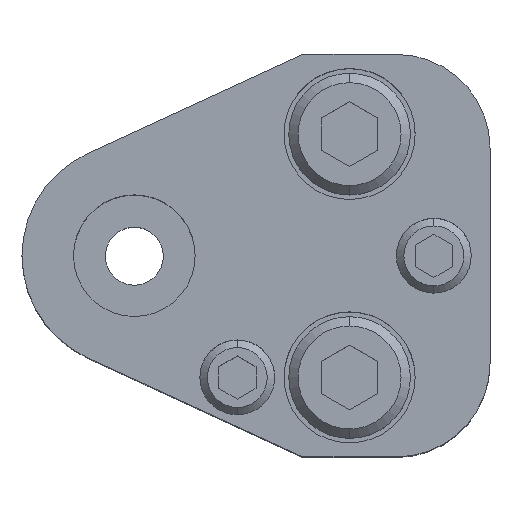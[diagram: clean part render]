
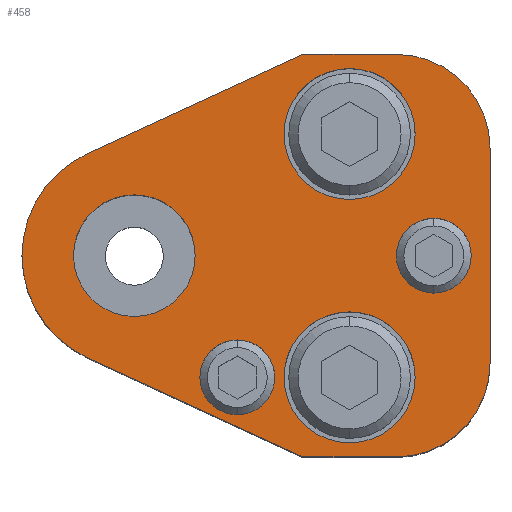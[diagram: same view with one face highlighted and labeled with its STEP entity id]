
A CAD part, top view. The second image highlights one B-rep face of the part: STEP entity #458.
In plain terms, the highlighted planar face has unit normal (0, 0, 1).
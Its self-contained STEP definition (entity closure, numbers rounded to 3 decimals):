
#217=FACE_BOUND('',#825,.T.);
#218=FACE_BOUND('',#826,.T.);
#219=FACE_BOUND('',#827,.T.);
#220=FACE_BOUND('',#828,.T.);
#221=FACE_BOUND('',#829,.T.);
#222=FACE_BOUND('',#830,.T.);
#273=CIRCLE('',#2646,12.);
#275=CIRCLE('',#2651,10.);
#277=CIRCLE('',#2655,10.);
#295=CIRCLE('',#2683,7.);
#297=CIRCLE('',#2686,7.);
#299=CIRCLE('',#2690,7.);
#301=CIRCLE('',#2693,7.);
#303=CIRCLE('',#2697,4.);
#304=CIRCLE('',#2698,4.);
#305=CIRCLE('',#2699,4.);
#306=CIRCLE('',#2700,4.);
#307=CIRCLE('',#2701,6.5);
#308=CIRCLE('',#2702,6.5);
#458=ADVANCED_FACE('',(#217,#218,#219,#220,#221,#222),#588,.T.);
#588=PLANE('',#2703);
#825=EDGE_LOOP('',(#1181,#1182,#1183,#1184,#1185,#1186,#1187,#1188));
#826=EDGE_LOOP('',(#1189,#1190));
#827=EDGE_LOOP('',(#1191,#1192));
#828=EDGE_LOOP('',(#1193,#1194));
#829=EDGE_LOOP('',(#1195,#1196));
#830=EDGE_LOOP('',(#1197,#1198));
#1181=ORIENTED_EDGE('',*,*,#1934,.T.);
#1182=ORIENTED_EDGE('',*,*,#1938,.T.);
#1183=ORIENTED_EDGE('',*,*,#1941,.T.);
#1184=ORIENTED_EDGE('',*,*,#1944,.T.);
#1185=ORIENTED_EDGE('',*,*,#1947,.T.);
#1186=ORIENTED_EDGE('',*,*,#1950,.T.);
#1187=ORIENTED_EDGE('',*,*,#1953,.T.);
#1188=ORIENTED_EDGE('',*,*,#1956,.T.);
#1189=ORIENTED_EDGE('',*,*,#1991,.F.);
#1190=ORIENTED_EDGE('',*,*,#1992,.F.);
#1191=ORIENTED_EDGE('',*,*,#1993,.F.);
#1192=ORIENTED_EDGE('',*,*,#1994,.F.);
#1193=ORIENTED_EDGE('',*,*,#1989,.F.);
#1194=ORIENTED_EDGE('',*,*,#1985,.F.);
#1195=ORIENTED_EDGE('',*,*,#1983,.F.);
#1196=ORIENTED_EDGE('',*,*,#1979,.F.);
#1197=ORIENTED_EDGE('',*,*,#1995,.T.);
#1198=ORIENTED_EDGE('',*,*,#1996,.T.);
#1688=VERTEX_POINT('',#3846);
#1689=VERTEX_POINT('',#3848);
#1692=VERTEX_POINT('',#3855);
#1694=VERTEX_POINT('',#3861);
#1696=VERTEX_POINT('',#3867);
#1698=VERTEX_POINT('',#3873);
#1700=VERTEX_POINT('',#3879);
#1702=VERTEX_POINT('',#3885);
#1719=VERTEX_POINT('',#3938);
#1720=VERTEX_POINT('',#3939);
#1723=VERTEX_POINT('',#3951);
#1724=VERTEX_POINT('',#3952);
#1727=VERTEX_POINT('',#3964);
#1728=VERTEX_POINT('',#3965);
#1729=VERTEX_POINT('',#3968);
#1730=VERTEX_POINT('',#3969);
#1731=VERTEX_POINT('',#3972);
#1732=VERTEX_POINT('',#3973);
#1934=EDGE_CURVE('',#1689,#1688,#273,.T.);
#1938=EDGE_CURVE('',#1688,#1692,#2266,.T.);
#1941=EDGE_CURVE('',#1692,#1694,#2269,.T.);
#1944=EDGE_CURVE('',#1694,#1696,#275,.T.);
#1947=EDGE_CURVE('',#1696,#1698,#2273,.T.);
#1950=EDGE_CURVE('',#1698,#1700,#277,.T.);
#1953=EDGE_CURVE('',#1700,#1702,#2277,.T.);
#1956=EDGE_CURVE('',#1702,#1689,#2280,.T.);
#1979=EDGE_CURVE('',#1719,#1720,#295,.T.);
#1983=EDGE_CURVE('',#1720,#1719,#297,.T.);
#1985=EDGE_CURVE('',#1723,#1724,#299,.T.);
#1989=EDGE_CURVE('',#1724,#1723,#301,.T.);
#1991=EDGE_CURVE('',#1727,#1728,#303,.T.);
#1992=EDGE_CURVE('',#1728,#1727,#304,.T.);
#1993=EDGE_CURVE('',#1729,#1730,#305,.T.);
#1994=EDGE_CURVE('',#1730,#1729,#306,.T.);
#1995=EDGE_CURVE('',#1731,#1732,#307,.T.);
#1996=EDGE_CURVE('',#1732,#1731,#308,.T.);
#2266=LINE('',#3856,#2458);
#2269=LINE('',#3862,#2461);
#2273=LINE('',#3874,#2465);
#2277=LINE('',#3886,#2469);
#2280=LINE('',#3890,#2472);
#2458=VECTOR('',#3056,1.);
#2461=VECTOR('',#3061,1.);
#2465=VECTOR('',#3073,1.);
#2469=VECTOR('',#3085,1.);
#2472=VECTOR('',#3090,1.);
#2646=AXIS2_PLACEMENT_3D('',#3847,#3048,#3049);
#2651=AXIS2_PLACEMENT_3D('',#3868,#3066,#3067);
#2655=AXIS2_PLACEMENT_3D('',#3880,#3078,#3079);
#2683=AXIS2_PLACEMENT_3D('',#3937,#3145,#3146);
#2686=AXIS2_PLACEMENT_3D('',#3946,#3153,#3154);
#2690=AXIS2_PLACEMENT_3D('',#3950,#3161,#3162);
#2693=AXIS2_PLACEMENT_3D('',#3959,#3169,#3170);
#2697=AXIS2_PLACEMENT_3D('',#3963,#3177,#3178);
#2698=AXIS2_PLACEMENT_3D('',#3966,#3179,#3180);
#2699=AXIS2_PLACEMENT_3D('',#3967,#3181,#3182);
#2700=AXIS2_PLACEMENT_3D('',#3970,#3183,#3184);
#2701=AXIS2_PLACEMENT_3D('',#3971,#3185,#3186);
#2702=AXIS2_PLACEMENT_3D('',#3974,#3187,#3188);
#2703=AXIS2_PLACEMENT_3D('',#3975,#3189,#3190);
#3048=DIRECTION('',(0.,0.,1.));
#3049=DIRECTION('',(0.,1.,0.));
#3056=DIRECTION('',(0.908,-0.418,0.));
#3061=DIRECTION('',(1.,0.,0.));
#3066=DIRECTION('',(0.,0.,1.));
#3067=DIRECTION('',(-0.707,0.707,0.));
#3073=DIRECTION('',(0.,1.,0.));
#3078=DIRECTION('',(0.,0.,1.));
#3079=DIRECTION('',(-0.707,-0.707,0.));
#3085=DIRECTION('',(-1.,0.,0.));
#3090=DIRECTION('',(-0.908,-0.418,0.));
#3145=DIRECTION('',(0.,0.,1.));
#3146=DIRECTION('',(-1.,0.,0.));
#3153=DIRECTION('',(0.,0.,1.));
#3154=DIRECTION('',(1.,0.,0.));
#3161=DIRECTION('',(0.,0.,1.));
#3162=DIRECTION('',(-1.,0.,0.));
#3169=DIRECTION('',(0.,0.,1.));
#3170=DIRECTION('',(1.,0.,0.));
#3177=DIRECTION('',(0.,0.,1.));
#3178=DIRECTION('',(1.,0.,0.));
#3179=DIRECTION('',(0.,0.,1.));
#3180=DIRECTION('',(-1.,0.,0.));
#3181=DIRECTION('',(0.,0.,1.));
#3182=DIRECTION('',(1.,0.,0.));
#3183=DIRECTION('',(0.,0.,1.));
#3184=DIRECTION('',(-1.,0.,0.));
#3185=DIRECTION('',(0.,0.,-1.));
#3186=DIRECTION('',(-1.,0.,0.));
#3187=DIRECTION('',(0.,0.,-1.));
#3188=DIRECTION('',(1.,0.,0.));
#3189=DIRECTION('',(0.,0.,1.));
#3190=DIRECTION('',(0.908,0.418,0.));
#3846=CARTESIAN_POINT('',(-5.019,-10.9,40.));
#3847=CARTESIAN_POINT('',(0.,0.,40.));
#3848=CARTESIAN_POINT('',(-5.019,10.9,40.));
#3855=CARTESIAN_POINT('',(18.,-21.5,40.));
#3856=CARTESIAN_POINT('',(18.,-21.5,40.));
#3861=CARTESIAN_POINT('',(28.,-21.5,40.));
#3862=CARTESIAN_POINT('',(18.,-21.5,40.));
#3867=CARTESIAN_POINT('',(38.,-11.5,40.));
#3868=CARTESIAN_POINT('',(28.,-11.5,40.));
#3873=CARTESIAN_POINT('',(38.,11.5,40.));
#3874=CARTESIAN_POINT('',(38.,-11.5,40.));
#3879=CARTESIAN_POINT('',(28.,21.5,40.));
#3880=CARTESIAN_POINT('',(28.,11.5,40.));
#3885=CARTESIAN_POINT('',(18.,21.5,40.));
#3886=CARTESIAN_POINT('',(18.,21.5,40.));
#3890=CARTESIAN_POINT('',(18.,21.5,40.));
#3937=CARTESIAN_POINT('',(23.,13.,40.));
#3938=CARTESIAN_POINT('',(23.,6.,40.));
#3939=CARTESIAN_POINT('',(23.,20.,40.));
#3946=CARTESIAN_POINT('',(23.,13.,40.));
#3950=CARTESIAN_POINT('',(23.,-13.,40.));
#3951=CARTESIAN_POINT('',(23.,-20.,40.));
#3952=CARTESIAN_POINT('',(23.,-6.,40.));
#3959=CARTESIAN_POINT('',(23.,-13.,40.));
#3963=CARTESIAN_POINT('',(11.,-13.,40.));
#3964=CARTESIAN_POINT('',(11.,-9.,40.));
#3965=CARTESIAN_POINT('',(11.,-17.,40.));
#3966=CARTESIAN_POINT('',(11.,-13.,40.));
#3967=CARTESIAN_POINT('',(32.,0.,40.));
#3968=CARTESIAN_POINT('',(32.,4.,40.));
#3969=CARTESIAN_POINT('',(32.,-4.,40.));
#3970=CARTESIAN_POINT('',(32.,0.,40.));
#3971=CARTESIAN_POINT('',(0.,0.,40.));
#3972=CARTESIAN_POINT('',(0.,6.5,40.));
#3973=CARTESIAN_POINT('',(0.,-6.5,40.));
#3974=CARTESIAN_POINT('',(0.,0.,40.));
#3975=CARTESIAN_POINT('',(-5.019,10.9,40.));
